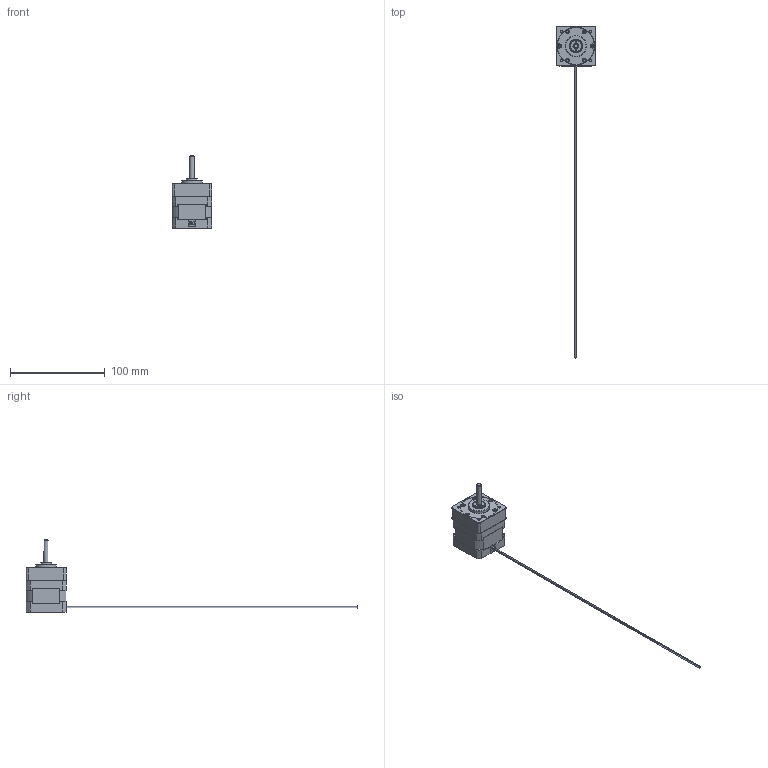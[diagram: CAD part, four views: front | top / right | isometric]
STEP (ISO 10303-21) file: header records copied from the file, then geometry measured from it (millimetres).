
FILE_DESCRIPTION(/* description */ (''),/* implementation_level */ '2;1');
FILE_NAME(/* name */ 'M:\Engineering\updated web step files (standard motor)\4209\4209S-XX_LP-GB.stp',/* time_stamp */ '2015-05-28T11:08:46-07:00',/* author */ ('ECruz'),/* organization */ (''),/* preprocessor_version */ 'ST-DEVELOPER v15.2',/* originating_system */ 'Autodesk Inventor 2014',/* authorisation */ '');
FILE_SCHEMA (('AUTOMOTIVE_DESIGN { 1 0 10303 214 3 1 1 }'));
Products named in the file (1): Part2
Bounding box: 42.1 x 349.44 x 76.01 mm (x, y, z)
Volume: 58406.4 mm3; surface area: 46637.3 mm2
Topology: 5 solids, 13 shells, 3504 faces, 13269 edges, 8730 vertices
Faces by surface type: cylinder 1557, plane 1353, bspline 259, cone 206, torus 100, sphere 29
Full cylindrical faces by diameter (mm): 0.762 x2, 0.965 x4, 2 x6, 2.2 x6, 2.464 x6, 2.5 x8, 2.997 x4, 3.302 x2, 3.4 x4, 3.498 x1, 3.5 x1, 4 x6, 4.8 x3, 4.991 x1, 4.994 x1, 5 x10, 5.001 x2, 5.02 x1, 5.055 x1, 5.182 x1, 5.992 x1, 6 x2, 6.3 x1, 6.5 x1, 7.468 x1, 7.6 x1, 7.62 x1, 7.81 x4, 7.823 x4, 7.864 x2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
Entity records: 164752 total; most frequent: CARTESIAN_POINT 48489, ORIENTED_EDGE 25682, DIRECTION 22912, EDGE_CURVE 12841, VERTEX_POINT 8581, AXIS2_PLACEMENT_3D 8040, LINE 6832, VECTOR 6832
